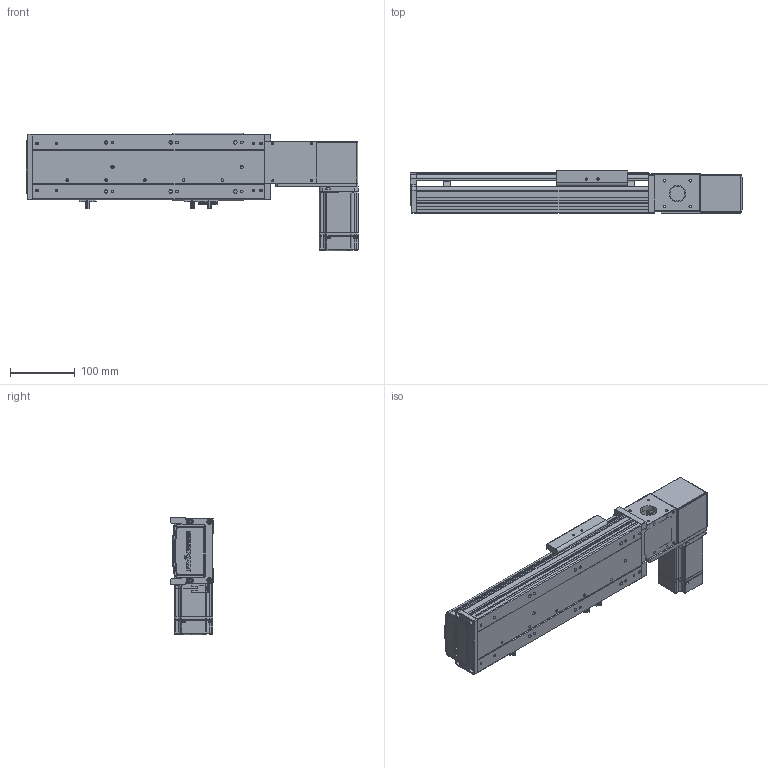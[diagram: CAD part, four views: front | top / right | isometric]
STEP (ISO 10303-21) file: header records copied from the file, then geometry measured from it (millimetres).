
FILE_DESCRIPTION (( 'STEP AP203' ), '1' );
FILE_NAME ('RY100-T-300-LK.SLDASM_150.step', '2024-04-25T05:36:28', ( '盈信电脑' ), ( '东莞市道滘镇水果街19号' ), 'SwSTEP 2.0', 'SolidWorks 2016', '' );
FILE_SCHEMA (( 'CONFIG_CONTROL_DESIGN' ));
Length unit declared in the file: millimetre
Products named in the file (13): 覜茼ん672; RY80-T肮祭謫俋欶; 1; RY100-T肮祭謫臏賑輸; RY100綴裔啣; RY100-T-300-RK倰第奻裔_150; RY100-T肮祭謫翋盓傅釱; RY100-T-300-RK倰第菁釱_150; RY100-T翋肮祭謫裔啣2; RY100-T左右折电机安装板; 滅袉蝶18-10; RY100俋离覜茼え; RY100-T-300-LK.SLDASM_150
Assembly tree (16 placements, depth 2):
  RY100-T-300-LK.SLDASM_150
    RY100-T-300-RK倰第菁釱_150
    RY100-T-300-RK倰第奻裔_150
    RY100-T肮祭謫臏賑輸
    RY100綴裔啣
    覜茼ん672  x3
    RY100俋离覜茼え
    RY100-T肮祭謫翋盓傅釱
    滅袉蝶18-10  x2
    RY100-T翋肮祭謫裔啣2  x2
    RY80-T肮祭謫俋欶
    RY100-T左右折电机安装板
    1
Bounding box: 514 x 66 x 182.5 mm (x, y, z)
Volume: 1257641.4 mm3; surface area: 467425.9 mm2
Topology: 16 solids, 16 shells, 2034 faces, 5629 edges, 3653 vertices
Faces by surface type: plane 1158, cylinder 675, cone 123, bspline 78
Entity records: 63755 total; most frequent: CARTESIAN_POINT 15237, ORIENTED_EDGE 9994, DIRECTION 9485, EDGE_CURVE 4997, LINE 3349, VECTOR 3349, VERTEX_POINT 3289, AXIS2_PLACEMENT_3D 3068
